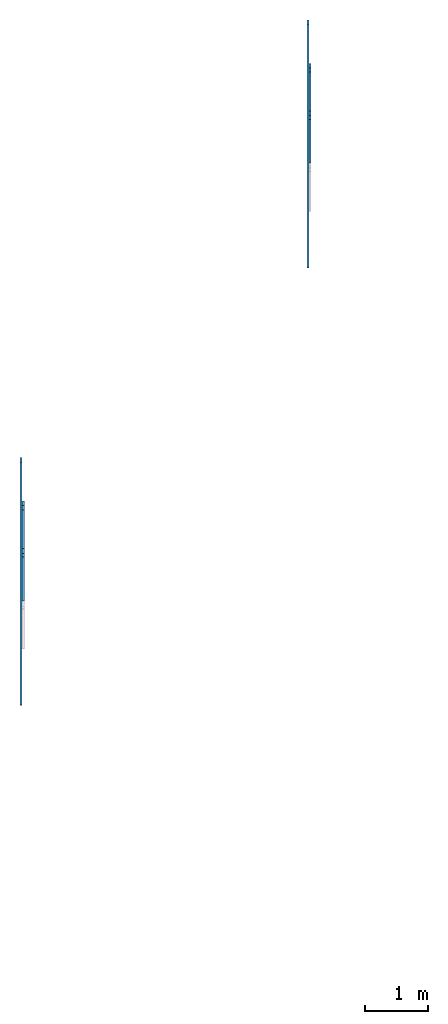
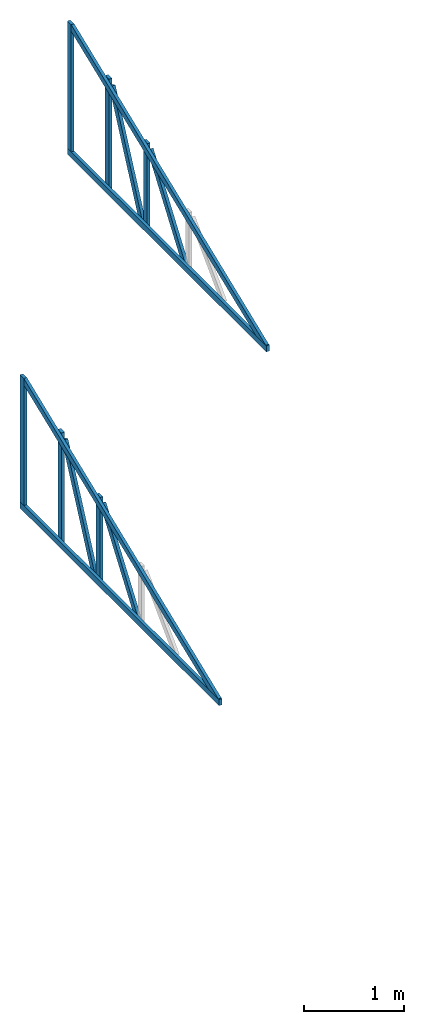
# One storey, part 2 of 4: 14 members, 2 elements without a shape of their own.
"""IFC4X3_ADD2 building model written with IfcOpenShell, lengths in millimetres."""

import ifcopenshell
import ifcopenshell.guid

model = None  # the IFC model being written
_history = None  # IfcOwnerHistory: only IFC2X3 demands one
_inside = {}  # id of a spatial element -> (the spatial element, [elements in it])
_under = {}  # id of a project, library or spatial element -> (it, [spatial elements below it])
_declared = {}  # id of a project -> (the project, [libraries it declares])
_typed = {}  # id of a type object -> (the type object, [elements of that type])
_made_of = {}  # id of a material, layer set ... -> (it, [elements and type objects made of it])


def new_model(schema):
    """Start an empty IFC model of exactly this schema.

    Asked for "IFC4X3", IfcOpenShell would pick the latest addendum, in which some entities
    have other attributes; the version numbers below select the first issue.
    IFC2X3 requires an IfcOwnerHistory on every rooted entity: one is made here for all.
    """
    global model, _history
    if schema == "IFC4X3":
        model = ifcopenshell.file(schema_version=(4, 3, 0, 0))
    else:
        model = ifcopenshell.file(schema=schema)
    _inside.clear()
    _under.clear()
    _declared.clear()
    _typed.clear()
    _made_of.clear()
    _history = None
    if model.schema == "IFC2X3":
        org = make("IfcOrganization", Name="unknown")
        user = make(
            "IfcPersonAndOrganization",
            ThePerson=make("IfcPerson", FamilyName="unknown"),
            TheOrganization=org,
        )
        app = make(
            "IfcApplication",
            ApplicationDeveloper=org,
            Version="unknown",
            ApplicationFullName="unknown",
            ApplicationIdentifier="unknown",
        )
        _history = make(
            "IfcOwnerHistory",
            OwningUser=user,
            OwningApplication=app,
            ChangeAction="ADDED",
            CreationDate=0,
        )
    return model


def make(cls, **values):
    """One entity of the class cls with the attributes given. An attribute that is None is left unset."""
    return model.create_entity(
        cls, **{name: value for name, value in values.items() if value is not None}
    )


def entity(cls, *values):
    """Any entity or typed value of the class cls, its attributes in the order of the schema. None: left unset."""
    e = model.create_entity(cls)
    for i, value in enumerate(values):
        if value is not None:
            e[i] = value
    return e


def rooted(cls, **values):
    """An entity with a GlobalId (a new one), such as an element, a storey or a relation."""
    return make(cls, GlobalId=ifcopenshell.guid.new(), OwnerHistory=_history, **values)


def si_unit(unit_type, name, prefix=None):
    """IfcSIUnit, for example si_unit("LENGTHUNIT", "METRE", prefix="MILLI")."""
    return make("IfcSIUnit", UnitType=unit_type, Prefix=prefix, Name=name)


def converted_unit(unit_type, name, factor, base, dimensions=None, offset=None):
    """IfcConversionBasedUnit, such as the inch: factor (a typed value) times the base unit."""
    return make(
        "IfcConversionBasedUnit"
        if offset is None
        else "IfcConversionBasedUnitWithOffset",
        ConversionOffset=offset,
        Dimensions=None
        if dimensions is None
        else entity("IfcDimensionalExponents", *dimensions),
        UnitType=unit_type,
        Name=name,
        ConversionFactor=make(
            "IfcMeasureWithUnit", ValueComponent=factor, UnitComponent=base
        ),
    )


def assignment(units):
    """IfcUnitAssignment: the units of a project."""
    return None if units is None else make("IfcUnitAssignment", Units=units)


def point(xyz):
    """IfcCartesianPoint."""
    return None if xyz is None else make("IfcCartesianPoint", Coordinates=xyz)


def direction(xyz):
    """IfcDirection."""
    return None if xyz is None else make("IfcDirection", DirectionRatios=xyz)


def frame(location, z_axis=None, x_axis=None):
    """IfcAxis2Placement3D, a coordinate frame: its origin and axes. An axis left out is left unset."""
    return make(
        "IfcAxis2Placement3D",
        Location=point(location),
        Axis=direction(z_axis),
        RefDirection=direction(x_axis),
    )


def frame_2d(location, x_axis=None):
    """IfcAxis2Placement2D, a coordinate frame in the plane: its origin and x axis."""
    return make(
        "IfcAxis2Placement2D", Location=point(location), RefDirection=direction(x_axis)
    )


def origin_with_axes():
    """The frame at (0, 0, 0) with the z axis (0, 0, 1) and the x axis (1, 0, 0) written out."""
    return frame((0.0, 0.0, 0.0), z_axis=(0.0, 0.0, 1.0), x_axis=(1.0, 0.0, 0.0))


def origin_2d_with_axis():
    """The frame at (0, 0) in the plane with the x axis (1, 0) written out."""
    return frame_2d((0.0, 0.0), x_axis=(1.0, 0.0))


def place(relative_to, where):
    """IfcLocalPlacement: puts the frame where relative to a parent placement (None: the world)."""
    return make(
        "IfcLocalPlacement", PlacementRelTo=relative_to, RelativePlacement=where
    )


def context(
    kind, dimensions, precision=None, world=None, true_north=None, identifier=None
):
    """IfcGeometricRepresentationContext, for example the 3D "Model" context."""
    return make(
        "IfcGeometricRepresentationContext",
        ContextIdentifier=identifier,
        ContextType=kind,
        CoordinateSpaceDimension=dimensions,
        Precision=precision,
        WorldCoordinateSystem=world,
        TrueNorth=true_north,
    )


def subcontext(parent, identifier, kind, view, scale=None):
    """IfcGeometricRepresentationSubContext, for example "Body" below "Model"."""
    return make(
        "IfcGeometricRepresentationSubContext",
        ContextIdentifier=identifier,
        ContextType=kind,
        ParentContext=parent,
        TargetScale=scale,
        TargetView=view,
    )


def project(units=None, contexts=None):
    """IfcProject with its units and contexts."""
    return rooted(
        "IfcProject",
        Name="project",
        RepresentationContexts=contexts,
        UnitsInContext=assignment(units),
    )


def spatial(cls, under=None, at=None, **own):
    """A site, building, storey or space (cls), placed at a placement, below another one or the project."""
    s = rooted(cls, ObjectPlacement=at, **own)
    if under is not None:
        _under.setdefault(under.id(), (under, []))[1].append(s)
    return s


def profile(cls, at=None, kind="AREA", **sizes):
    """A parametric profile (cls). Its sizes go by their IFC names, for example OverallWidth=200.0."""
    return make(cls, ProfileType=kind, Position=at, **sizes)


def rectangle(**sizes):
    """IfcRectangleProfileDef."""
    return profile("IfcRectangleProfileDef", **sizes)


def extrude(swept, where, along, depth):
    """IfcExtrudedAreaSolid: the profile swept, set in the frame where, extruded along a direction by depth."""
    return make(
        "IfcExtrudedAreaSolid",
        SweptArea=swept,
        Position=where,
        ExtrudedDirection=direction(along),
        Depth=depth,
    )


def clip(a, b, op="DIFFERENCE"):
    """IfcBooleanClippingResult: the solid a cut by the half space b."""
    return make(
        "IfcBooleanClippingResult", Operator=op, FirstOperand=a, SecondOperand=b
    )


def halfspace(plane, agree):
    """IfcHalfSpaceSolid: all space on one side of the plane z = 0 of the frame plane."""
    return make(
        "IfcHalfSpaceSolid",
        BaseSurface=make("IfcPlane", Position=plane),
        AgreementFlag=agree,
    )


def shape(context_of_items, identifier, shape_type, items):
    """IfcShapeRepresentation: the items that make up one representation, for example the "Body"."""
    return make(
        "IfcShapeRepresentation",
        ContextOfItems=context_of_items,
        RepresentationIdentifier=identifier,
        RepresentationType=shape_type,
        Items=items,
    )


def material(Name=None, Category=None):
    """IfcMaterial."""
    return make("IfcMaterial", Name=Name, Category=Category)


def material_profile(
    of_material, cross_section, Name=None, Category=None, Priority=None
):
    """IfcMaterialProfile: a cross section and its material."""
    return make(
        "IfcMaterialProfile",
        Name=Name,
        Material=of_material,
        Profile=cross_section,
        Priority=Priority,
        Category=Category,
    )


def profile_set(profiles, Name=None, composite=None):
    """IfcMaterialProfileSet."""
    return make(
        "IfcMaterialProfileSet",
        Name=Name,
        MaterialProfiles=profiles,
        CompositeProfile=composite,
    )


def profile_usage(for_profile_set, cardinal=None, extent=None):
    """IfcMaterialProfileSetUsage: how a profile set lies along its element."""
    return make(
        "IfcMaterialProfileSetUsage",
        ForProfileSet=for_profile_set,
        CardinalPoint=cardinal,
        ReferenceExtent=extent,
    )


def made_of(thing, what):
    """Note that an element or type object is made of a material, layer set ...; save() writes the relation."""
    if what is not None:
        _made_of.setdefault(what.id(), (what, []))[1].append(thing)
    return thing


def type_object(cls, material=None, **own):
    """A type object (cls), such as IfcWallType, which elements share."""
    return made_of(rooted(cls, **own), material)


def element(
    cls,
    number,
    at=None,
    inside=None,
    cuts=None,
    type_object=None,
    material=None,
    context=None,
    identifier="Body",
    shape_type=None,
    held_by="IfcProductDefinitionShape",
    body=None,
    shapes=None,
    **own,
):
    """One element of the class cls, such as IfcWall. Its Tag is "e" and its number.

    at: its placement. inside: the storey or other place that contains it. cuts: it is an
    opening in that element (IfcRelVoidsElement). A single representation is given by context,
    identifier, shape_type and body (its items); several are given by shapes. held_by: the class
    of the entity that holds the representations. save() writes the other relations.
    """
    e = rooted(cls, Tag="e%d" % number, ObjectPlacement=at, **own)
    if body is not None:
        shapes = [shape(context, identifier, shape_type, body)]
    if shapes is not None:
        e.Representation = make(held_by, Representations=shapes)
    if inside is not None:
        _inside.setdefault(inside.id(), (inside, []))[1].append(e)
    if cuts is not None:
        rooted(
            "IfcRelVoidsElement", RelatingBuildingElement=cuts, RelatedOpeningElement=e
        )
    if type_object is not None:
        _typed.setdefault(type_object.id(), (type_object, []))[1].append(e)
    return made_of(e, material)


def aggregate(whole, parts):
    """IfcRelAggregates: a whole, such as a stair, and the parts it consists of."""
    return rooted("IfcRelAggregates", RelatingObject=whole, RelatedObjects=parts)


def save(model, path):
    """Write the relations noted so far, then the file.

    IfcRelAggregates (storeys below a building ...), IfcRelContainedInSpatialStructure (elements
    in a storey), IfcRelDefinesByType, IfcRelAssociatesMaterial and IfcRelDeclares: one each for
    every whole, place, type object, material and project.
    """
    for whole, parts in _under.values():
        aggregate(whole, parts)
    for where, things in _inside.values():
        rooted(
            "IfcRelContainedInSpatialStructure",
            RelatedElements=things,
            RelatingStructure=where,
        )
    for kind, things in _typed.values():
        rooted("IfcRelDefinesByType", RelatedObjects=things, RelatingType=kind)
    for what, things in _made_of.values():
        rooted("IfcRelAssociatesMaterial", RelatedObjects=things, RelatingMaterial=what)
    for by, libraries in _declared.values():
        rooted("IfcRelDeclares", RelatingContext=by, RelatedDefinitions=libraries)
    model.write(path)


model = new_model("IFC4X3_ADD2")

# Units and contexts
model_context = context("Model", 3, precision=1e-05, world=origin_with_axes())
plan_context = context("Plan", 2, precision=1e-05, world=origin_2d_with_axis())
body_context = subcontext(model_context, "Body", "Model", "MODEL_VIEW")
ifc_project = project(units=[si_unit("VOLUMEUNIT", "CUBIC_METRE"), si_unit("LENGTHUNIT", "METRE", prefix="MILLI"), converted_unit("PLANEANGLEUNIT", "degree", entity("IfcReal", 0.0174532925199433), si_unit("PLANEANGLEUNIT", "RADIAN"), dimensions=[0, 0, 0, 0, 0, 0, 0]), si_unit("AREAUNIT", "SQUARE_METRE")], contexts=[model_context, plan_context])

# Site, building, storey
site_placement = place(None, origin_with_axes())
site = spatial("IfcSite", under=ifc_project, at=site_placement, Name="My Site")
building_placement = place(site_placement, origin_with_axes())
building = spatial("IfcBuilding", under=site, at=building_placement, Name="My Building")
storey_placement = place(building_placement, origin_with_axes())
storey = spatial("IfcBuildingStorey", under=building, at=storey_placement, Name="Riang Blok")

# Assembly, members
assembly_1_placement = place(storey_placement, frame((-9911.16714477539, 22422.9049682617, 6113.03901672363), z_axis=(0.0, 0.0, 1.0), x_axis=(1.0, 0.0, 0.0)))
assembly_1 = element("IfcElementAssembly", 1, at=assembly_1_placement, inside=storey, Name="KUDA KUDA 2_1")
ifc_material = material(Name="Galvanis")
ifc_material_profile = material_profile(ifc_material, rectangle(XDim=35.0, YDim=75.0))
ifc_profile_set = profile_set([ifc_material_profile])
ifc_profile_usage_1 = profile_usage(ifc_profile_set, cardinal=2)
member_type = type_object("IfcMemberType", Name="C75", PredefinedType="MEMBER", material=ifc_profile_set)
member_1_placement = place(assembly_1_placement, frame((-17.4999237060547, -75.0007629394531, 0.0), z_axis=(-1.19209232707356e-07, -0.999999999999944, 3.13916473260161e-07), x_axis=(0.999999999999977, -1.19209289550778e-07, -1.78813920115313e-07)))
member_1 = element("IfcMember", 2, at=member_1_placement, type_object=member_type, material=ifc_profile_usage_1, Name="Member.018", context=body_context, shape_type="SweptSolid", body=[
    extrude(rectangle(XDim=35.0, YDim=75.0), frame((0.0, 37.5, 0.0), z_axis=(0.0, 0.0, 1.0), x_axis=(1.0, 0.0, 0.0)), (0.0, 0.0, 1.0), 3965.00009313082),
])
ifc_profile_usage_2 = profile_usage(ifc_profile_set, cardinal=8)
member_2_placement = place(assembly_1_placement, frame((17.4999237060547, -1460.84403991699, -25.7043838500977), z_axis=(2.72687658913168e-07, 0.424450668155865, 0.905451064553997), x_axis=(0.999999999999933, -3.35730078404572e-07, -1.4378116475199e-07)))
member_2 = element("IfcMember", 3, at=member_2_placement, type_object=member_type, material=ifc_profile_usage_2, Name="Member.020", context=body_context, shape_type="SweptSolid", body=[
    extrude(rectangle(XDim=35.0, YDim=75.0), frame((0.0, -37.5, 0.0), z_axis=(0.0, 0.0, 1.0), x_axis=(1.0, 0.0, 0.0)), (0.0, 0.0, 1.0), 1458.41274272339),
])
ifc_profile_usage_3 = profile_usage(ifc_profile_set, cardinal=8)
member_3_placement = place(assembly_1_placement, frame((17.4999237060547, -2304.02565002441, 0.0), z_axis=(2.73723747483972e-07, 0.583766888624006, 0.811921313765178), x_axis=(0.999999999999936, -3.46747299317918e-07, -8.78215047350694e-08)))
member_3 = element("IfcMember", 4, at=member_3_placement, type_object=member_type, material=ifc_profile_usage_3, Name="Member.022", context=body_context, shape_type="SweptSolid", body=[
    extrude(rectangle(XDim=35.0, YDim=75.0), frame((0.0, -37.5, 0.0), z_axis=(0.0, 0.0, 1.0), x_axis=(1.0, 0.0, 0.0)), (0.0, 0.0, 1.0), 1197.94040601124),
])
ifc_profile_usage_4 = profile_usage(ifc_profile_set, cardinal=8)
member_4_placement = place(assembly_1_placement, frame((-17.4999237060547, -4099.09820556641, 47.2126007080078), z_axis=(3.70030906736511e-07, 0.928827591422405, 0.370512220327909), x_axis=(-0.999999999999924, 3.89414367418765e-07, 2.2488041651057e-08)))
member_4 = element("IfcMember", 5, at=member_4_placement, type_object=member_type, material=ifc_profile_usage_4, Name="Member.023", context=body_context, shape_type="Clipping", body=[
    clip(extrude(rectangle(XDim=35.0, YDim=75.0), frame((0.0, -37.5, 0.0), z_axis=(0.0, 0.0, 1.0), x_axis=(1.0, 0.0, 0.0)), (0.0, 0.0, 1.0), 4251.69860330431), halfspace(frame((0.00121235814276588, -1465.16704559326, 3747.98631668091), z_axis=(1.56325739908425e-07, -0.928827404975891, -0.370512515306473), x_axis=(-0.999999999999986, -1.68304400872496e-07, 0.0)), False)),
])
ifc_profile_usage_5 = profile_usage(ifc_profile_set, cardinal=8)
member_5_placement = place(assembly_1_placement, frame((17.5008773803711, -1529.02603149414, 1042.47951507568), z_axis=(-6.27832946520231e-07, -8.742269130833e-08, -0.999999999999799), x_axis=(-0.999999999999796, 1.1920928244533e-07, 6.27832946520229e-07)))
member_5 = element("IfcMember", 6, at=member_5_placement, type_object=member_type, material=ifc_profile_usage_5, Name="Member.024", context=body_context, shape_type="SweptSolid", body=[
    extrude(rectangle(XDim=35.0, YDim=75.0), frame((0.0, -37.5, 0.0), z_axis=(0.0, 0.0, 1.0), x_axis=(1.0, 0.0, 0.0)), (0.0, 0.0, 1.0), 1042.48001134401),
])
ifc_profile_usage_6 = profile_usage(ifc_profile_set, cardinal=8)
member_6_placement = place(assembly_1_placement, frame((-17.4980163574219, -75.0007629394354, 74.9998092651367), z_axis=(1.43781164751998e-07, 0.0, 0.99999999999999), x_axis=(0.99999999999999, 0.0, -1.43781164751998e-07)))
member_6 = element("IfcMember", 7, at=member_6_placement, type_object=member_type, material=ifc_profile_usage_6, Name="Member", context=body_context, shape_type="SweptSolid", body=[
    extrude(rectangle(XDim=35.0, YDim=75.0), frame((0.0, -37.5, 0.0), z_axis=(0.0, 0.0, 1.0), x_axis=(1.0, 0.0, 0.0)), (0.0, 0.0, 1.0), 1547.51920290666),
])
ifc_profile_usage_7 = profile_usage(ifc_profile_set, cardinal=8)
member_7_placement = place(assembly_1_placement, frame((17.4999237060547, -766.819000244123, 0.0), z_axis=(1.43781164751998e-07, 0.0, 0.99999999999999), x_axis=(0.99999999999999, 0.0, -1.43781164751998e-07)))
member_7 = element("IfcMember", 8, at=member_7_placement, type_object=member_type, material=ifc_profile_usage_7, Name="Member", context=body_context, shape_type="SweptSolid", body=[
    extrude(rectangle(XDim=35.0, YDim=75.0), frame((0.0, -37.5, 0.0), z_axis=(0.0, 0.0, 1.0), x_axis=(1.0, 0.0, 0.0)), (0.0, 0.0, 1.0), 1365.7832318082),
])
aggregate(assembly_1, [member_1, member_2, member_3, member_4, member_5, member_6, member_7])

assembly_2_placement = place(storey_placement, frame((-14495.8400726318, 15426.399230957, 7658.15305709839), z_axis=(0.0, 0.0, 1.0), x_axis=(1.0, 0.0, 0.0)))
assembly_2 = element("IfcElementAssembly", 9, at=assembly_2_placement, inside=storey, Name="KUDA KUDA 2_0")
ifc_profile_usage_8 = profile_usage(ifc_profile_set, cardinal=8)
member_8_placement = place(assembly_2_placement, frame((17.4999237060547, -1460.84403991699, -25.7043838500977), z_axis=(2.72687658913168e-07, 0.424450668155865, 0.905451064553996), x_axis=(0.999999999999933, -3.35730078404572e-07, -1.4378116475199e-07)))
member_8 = element("IfcMember", 10, at=member_8_placement, type_object=member_type, material=ifc_profile_usage_8, Name="Member.023", context=body_context, shape_type="SweptSolid", body=[
    extrude(rectangle(XDim=35.0, YDim=75.0), frame((0.0, -37.5, 0.0), z_axis=(0.0, 0.0, 1.0), x_axis=(1.0, 0.0, 0.0)), (0.0, 0.0, 1.0), 1458.41315141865),
])
ifc_profile_usage_9 = profile_usage(ifc_profile_set, cardinal=8)
member_9_placement = place(assembly_2_placement, frame((17.4999237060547, -2304.02565002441, 0.0), z_axis=(2.73723798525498e-07, 0.583766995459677, 0.811921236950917), x_axis=(0.999999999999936, -3.46747384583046e-07, -8.782147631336e-08)))
member_9 = element("IfcMember", 11, at=member_9_placement, type_object=member_type, material=ifc_profile_usage_9, Name="Member.026", context=body_context, shape_type="SweptSolid", body=[
    extrude(rectangle(XDim=35.0, YDim=75.0), frame((0.0, -37.5, 0.0), z_axis=(0.0, 0.0, 1.0), x_axis=(1.0, 0.0, 0.0)), (0.0, 0.0, 1.0), 1197.9413638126),
])
ifc_profile_usage_10 = profile_usage(ifc_profile_set, cardinal=8)
member_10_placement = place(assembly_2_placement, frame((17.5008773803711, -1529.02603149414, 1042.47903823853), z_axis=(-6.27832946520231e-07, -8.742269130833e-08, -0.999999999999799), x_axis=(-0.999999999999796, 1.1920928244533e-07, 6.27832946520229e-07)))
member_10 = element("IfcMember", 12, at=member_10_placement, type_object=member_type, material=ifc_profile_usage_10, Name="Member.027", context=body_context, shape_type="SweptSolid", body=[
    extrude(rectangle(XDim=35.0, YDim=75.0), frame((0.0, -37.5, 0.0), z_axis=(0.0, 0.0, 1.0), x_axis=(1.0, 0.0, 0.0)), (0.0, 0.0, 1.0), 1042.48001134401),
])
ifc_profile_usage_11 = profile_usage(ifc_profile_set, cardinal=8)
member_11_placement = place(assembly_2_placement, frame((-17.4999237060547, -4099.09820556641, 47.2126007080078), z_axis=(3.7003093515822e-07, 0.928827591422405, 0.370512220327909), x_axis=(-0.999999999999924, 3.89414367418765e-07, 2.24881109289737e-08)))
member_11 = element("IfcMember", 13, at=member_11_placement, type_object=member_type, material=ifc_profile_usage_11, Name="Member.028", context=body_context, shape_type="Clipping", body=[
    clip(extrude(rectangle(XDim=35.0, YDim=75.0), frame((0.0, -37.5, 0.0), z_axis=(0.0, 0.0, 1.0), x_axis=(1.0, 0.0, 0.0)), (0.0, 0.0, 1.0), 4251.69933229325), halfspace(frame((0.0023372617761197, -1465.16811847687, 3747.98893928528), z_axis=(1.56325711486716e-07, -0.928827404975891, -0.370512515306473), x_axis=(-0.999999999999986, -1.68304370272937e-07, 0.0)), False)),
])
ifc_profile_usage_12 = profile_usage(ifc_profile_set, cardinal=8)
member_12_placement = place(assembly_2_placement, frame((17.4999237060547, -766.819000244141, 0.0), z_axis=(1.43781164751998e-07, 0.0, 0.99999999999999), x_axis=(0.99999999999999, 0.0, -1.43781164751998e-07)))
member_12 = element("IfcMember", 14, at=member_12_placement, type_object=member_type, material=ifc_profile_usage_12, Name="Member", context=body_context, shape_type="SweptSolid", body=[
    extrude(rectangle(XDim=35.0, YDim=75.0), frame((0.0, -37.5, 0.0), z_axis=(0.0, 0.0, 1.0), x_axis=(1.0, 0.0, 0.0)), (0.0, 0.0, 1.0), 1365.7832318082),
])
ifc_profile_usage_13 = profile_usage(ifc_profile_set, cardinal=8)
member_13_placement = place(assembly_2_placement, frame((-17.4980163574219, -75.0007629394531, 74.9998092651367), z_axis=(1.43781164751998e-07, 0.0, 0.99999999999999), x_axis=(0.99999999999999, 0.0, -1.43781164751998e-07)))
member_13 = element("IfcMember", 15, at=member_13_placement, type_object=member_type, material=ifc_profile_usage_13, Name="Member", context=body_context, shape_type="SweptSolid", body=[
    extrude(rectangle(XDim=35.0, YDim=75.0), frame((0.0, -37.5, 0.0), z_axis=(0.0, 0.0, 1.0), x_axis=(1.0, 0.0, 0.0)), (0.0, 0.0, 1.0), 1547.51920290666),
])
ifc_profile_usage_14 = profile_usage(ifc_profile_set, cardinal=2)
member_14_placement = place(assembly_2_placement, frame((-17.4999237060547, -75.0007629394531, 0.0), z_axis=(-1.19209232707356e-07, -0.999999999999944, 3.13916473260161e-07), x_axis=(0.999999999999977, -1.19209289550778e-07, -1.78813920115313e-07)))
member_14 = element("IfcMember", 16, at=member_14_placement, type_object=member_type, material=ifc_profile_usage_14, Name="Member.018", context=body_context, shape_type="SweptSolid", body=[
    extrude(rectangle(XDim=35.0, YDim=75.0), frame((0.0, 37.5, 0.0), z_axis=(0.0, 0.0, 1.0), x_axis=(1.0, 0.0, 0.0)), (0.0, 0.0, 1.0), 3964.99925129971),
])
aggregate(assembly_2, [member_8, member_9, member_10, member_11, member_12, member_13, member_14])

save(model, "model.ifc")
